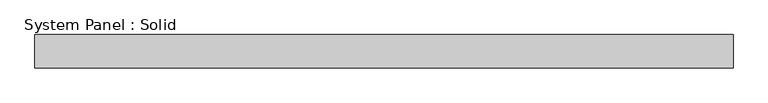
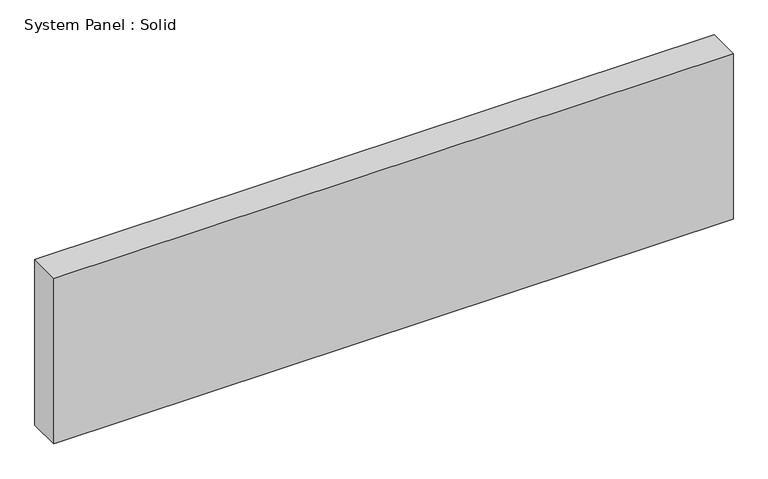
"""IFC4 building model written with IfcOpenShell, lengths in millimetres: plate geometry, System Panel : Solid."""

from ifc_helpers import new_model, si_unit, origin, origin_with_axes, place, context, project, spatial, polyline, outline, extrude, source, transform, mapped, element, save


def system_panel_solid_982d0824(model_context):
    return source(origin(), model_context, "Body", "SweptSolid", [
        extrude(outline(polyline([(661.0330663, -19.05), (-661.0330663, -19.05), (-661.0330663, 44.45), (661.0330663, 44.45), (661.0330663, -19.05)])), origin_with_axes(), (0.0, 0.0, 1.0), 341.0388226),
    ])


if __name__ == "__main__":
    model = new_model("IFC4")
    model_context = context("Model", 3, world=origin())
    ifc_project = project(units=[si_unit("LENGTHUNIT", "METRE", prefix="MILLI")], contexts=[model_context])
    site = spatial("IfcSite", under=ifc_project)
    building = spatial("IfcBuilding", under=site)
    placement = place(None, origin())
    system_panel_solid_shape = system_panel_solid_982d0824(model_context)
    element("IfcPlate", 1, ObjectType="System Panel : Solid", at=placement, inside=building, context=model_context, shape_type="MappedRepresentation", body=[
        mapped(system_panel_solid_shape, transform((0.0, 0.0, 0.0), x_axis=(1.0, 0.0, 0.0), y_axis=(0.0, 1.0, 0.0), z_axis=(0.0, 0.0, 1.0))),
    ])
    save(model, "model.ifc")
